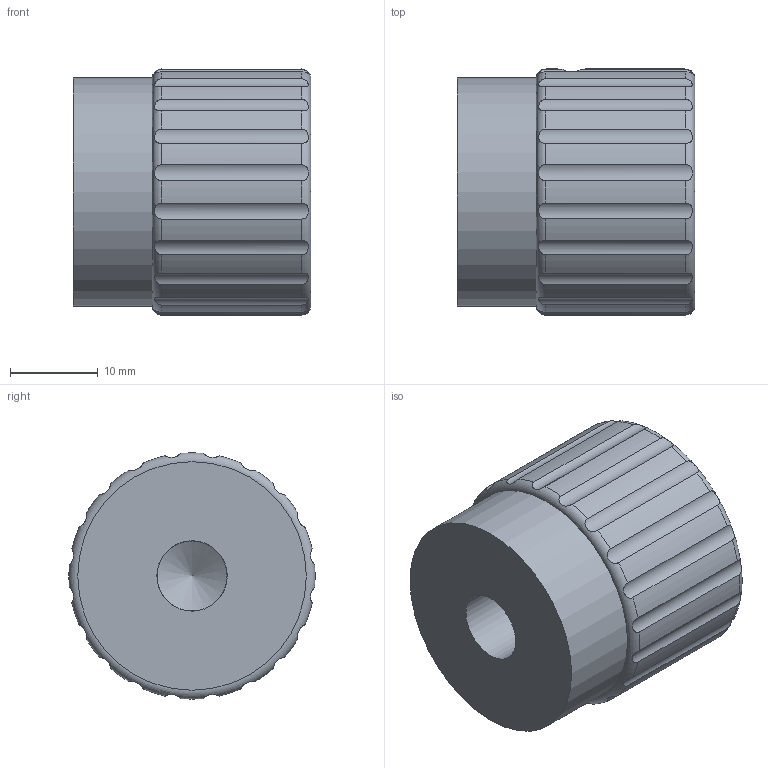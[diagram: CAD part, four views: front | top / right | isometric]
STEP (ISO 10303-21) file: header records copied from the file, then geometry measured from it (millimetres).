
FILE_DESCRIPTION( ( 'STEP AP203' ), '1' );
FILE_NAME( 'C:/Temp/Ganter_Step_05_03_2020/data/1_4/gn_436_1/gn_436_1_b/Stainless Steel-Control knob GN 436.1-28-B8-B-MT.stp', '2020-03-05T10:48:44', ( 'License CC BY-ND 4.0' ), ( 'CADENAS' ), ' ', 'PARTsolutions', ' ' );
FILE_SCHEMA( ( 'CONFIG_CONTROL_DESIGN' ) );
Length unit declared in the file: millimetre
Products named in the file (1): _Stainless Steel-Control knob GN 436.1-28-B8-B-MT
Bounding box: 27 x 27.99 x 27.99 mm (x, y, z)
Volume: 14506.3 mm3; surface area: 4126.6 mm2
Topology: 1 solids, 1 shells, 63 faces, 173 edges, 115 vertices
Faces by surface type: cylinder 46, plane 12, cone 3, torus 2
Full cylindrical faces by diameter (mm): 3.242 x2, 7.96 x1, 8 x1, 26 x1
Entity records: 2642 total; most frequent: CARTESIAN_POINT 1116, ORIENTED_EDGE 312, DIRECTION 290, EDGE_CURVE 156, AXIS2_PLACEMENT_3D 115, VERTEX_POINT 109, EDGE_LOOP 76, FACE_OUTER_BOUND 70
